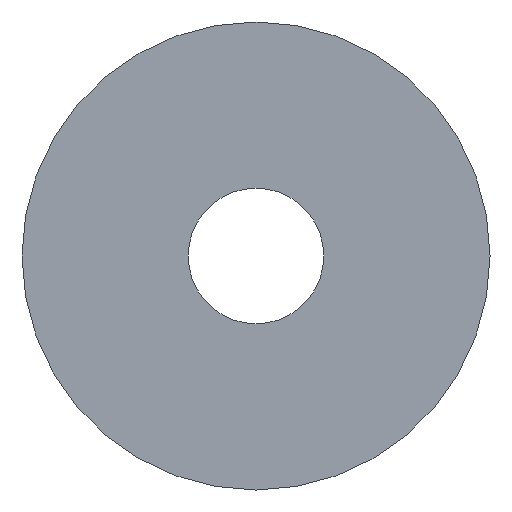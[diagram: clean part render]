
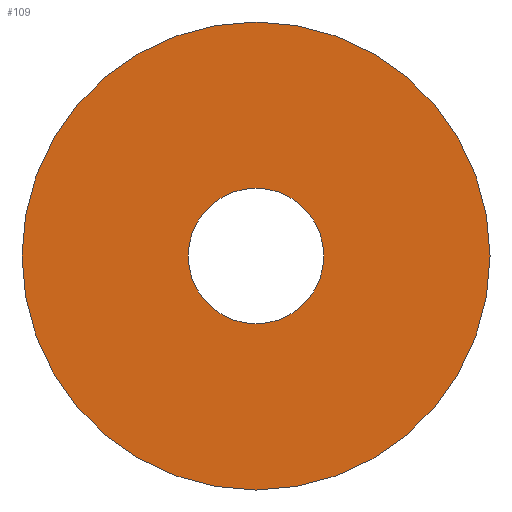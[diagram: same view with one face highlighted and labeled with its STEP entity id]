
A CAD part, left-side view. The second image highlights one B-rep face of the part: STEP entity #109.
In plain terms, the highlighted planar face has unit normal (-1, 0, 0).
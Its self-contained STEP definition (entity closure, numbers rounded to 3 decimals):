
#21 = EDGE_CURVE('',#22,#22,#24,.T.);
#22 = VERTEX_POINT('',#23);
#23 = CARTESIAN_POINT('',(-7.4,34.5,0.));
#24 = SURFACE_CURVE('',#25,(#30,#42),.PCURVE_S1.);
#25 = CIRCLE('',#26,34.5);
#26 = AXIS2_PLACEMENT_3D('',#27,#28,#29);
#27 = CARTESIAN_POINT('',(-7.4,0.,0.));
#28 = DIRECTION('',(1.,0.,0.));
#29 = DIRECTION('',(0.,1.,0.));
#30 = PCURVE('',#31,#36);
#31 = CYLINDRICAL_SURFACE('',#32,34.5);
#32 = AXIS2_PLACEMENT_3D('',#33,#34,#35);
#33 = CARTESIAN_POINT('',(-7.4,0.,0.));
#34 = DIRECTION('',(-1.,-0.,-0.));
#35 = DIRECTION('',(0.,1.,0.));
#36 = DEFINITIONAL_REPRESENTATION('',(#37),#41);
#37 = LINE('',#38,#39);
#38 = CARTESIAN_POINT('',(-0.,0.));
#39 = VECTOR('',#40,1.);
#40 = DIRECTION('',(-1.,0.));
#41 = ( GEOMETRIC_REPRESENTATION_CONTEXT(2) 
PARAMETRIC_REPRESENTATION_CONTEXT() REPRESENTATION_CONTEXT('2D SPACE',''
  ) );
#42 = PCURVE('',#43,#48);
#43 = PLANE('',#44);
#44 = AXIS2_PLACEMENT_3D('',#45,#46,#47);
#45 = CARTESIAN_POINT('',(-7.4,0.,0.));
#46 = DIRECTION('',(1.,0.,0.));
#47 = DIRECTION('',(-0.,0.,1.));
#48 = DEFINITIONAL_REPRESENTATION('',(#49),#53);
#49 = CIRCLE('',#50,34.5);
#50 = AXIS2_PLACEMENT_2D('',#51,#52);
#51 = CARTESIAN_POINT('',(0.,0.));
#52 = DIRECTION('',(0.,-1.));
#53 = ( GEOMETRIC_REPRESENTATION_CONTEXT(2) 
PARAMETRIC_REPRESENTATION_CONTEXT() REPRESENTATION_CONTEXT('2D SPACE',''
  ) );
#109 = ADVANCED_FACE('',(#110,#113),#43,.F.);
#110 = FACE_BOUND('',#111,.F.);
#111 = EDGE_LOOP('',(#112));
#112 = ORIENTED_EDGE('',*,*,#21,.T.);
#113 = FACE_BOUND('',#114,.F.);
#114 = EDGE_LOOP('',(#115));
#115 = ORIENTED_EDGE('',*,*,#116,.T.);
#116 = EDGE_CURVE('',#117,#117,#119,.T.);
#117 = VERTEX_POINT('',#118);
#118 = CARTESIAN_POINT('',(-7.4,10.,0.));
#119 = SURFACE_CURVE('',#120,(#125,#136),.PCURVE_S1.);
#120 = CIRCLE('',#121,10.);
#121 = AXIS2_PLACEMENT_3D('',#122,#123,#124);
#122 = CARTESIAN_POINT('',(-7.4,0.,0.));
#123 = DIRECTION('',(-1.,0.,0.));
#124 = DIRECTION('',(0.,1.,0.));
#125 = PCURVE('',#43,#126);
#126 = DEFINITIONAL_REPRESENTATION('',(#127),#135);
#127 = ( BOUNDED_CURVE() B_SPLINE_CURVE(2,(#128,#129,#130,#131,#132,#133
,#134),.UNSPECIFIED.,.T.,.F.) B_SPLINE_CURVE_WITH_KNOTS((1,2,2,2,2,1),(
    -2.094,0.,2.094,4.189,6.283,
8.378),.UNSPECIFIED.) CURVE() GEOMETRIC_REPRESENTATION_ITEM() 
RATIONAL_B_SPLINE_CURVE((1.,0.5,1.,0.5,1.,0.5,1.)) REPRESENTATION_ITEM(
  '') );
#128 = CARTESIAN_POINT('',(0.,-10.));
#129 = CARTESIAN_POINT('',(-17.321,-10.));
#130 = CARTESIAN_POINT('',(-8.66,5.));
#131 = CARTESIAN_POINT('',(0.,20.));
#132 = CARTESIAN_POINT('',(8.66,5.));
#133 = CARTESIAN_POINT('',(17.321,-10.));
#134 = CARTESIAN_POINT('',(0.,-10.));
#135 = ( GEOMETRIC_REPRESENTATION_CONTEXT(2) 
PARAMETRIC_REPRESENTATION_CONTEXT() REPRESENTATION_CONTEXT('2D SPACE',''
  ) );
#136 = PCURVE('',#137,#142);
#137 = CYLINDRICAL_SURFACE('',#138,10.);
#138 = AXIS2_PLACEMENT_3D('',#139,#140,#141);
#139 = CARTESIAN_POINT('',(-8.4,0.,0.));
#140 = DIRECTION('',(-1.,-0.,-0.));
#141 = DIRECTION('',(0.,1.,0.));
#142 = DEFINITIONAL_REPRESENTATION('',(#143),#147);
#143 = LINE('',#144,#145);
#144 = CARTESIAN_POINT('',(-6.283,-1.));
#145 = VECTOR('',#146,1.);
#146 = DIRECTION('',(1.,-0.));
#147 = ( GEOMETRIC_REPRESENTATION_CONTEXT(2) 
PARAMETRIC_REPRESENTATION_CONTEXT() REPRESENTATION_CONTEXT('2D SPACE',''
  ) );
